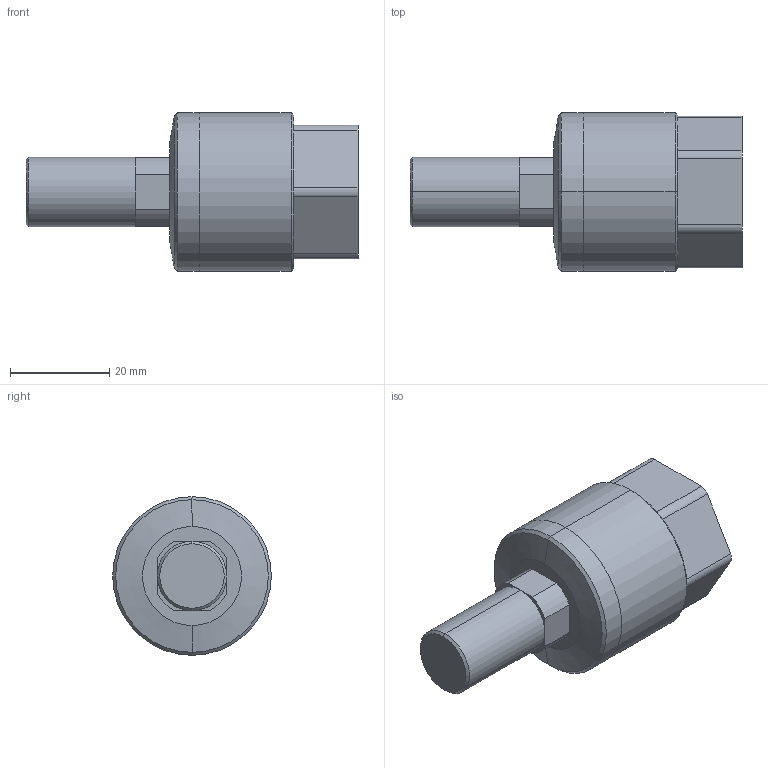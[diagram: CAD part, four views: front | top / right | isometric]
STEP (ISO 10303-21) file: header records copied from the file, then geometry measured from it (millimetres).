
FILE_DESCRIPTION (( 'STEP AP203' ), '1' );
FILE_NAME ('FCM14A-1.5.STEP', '2016-03-23T03:41:44', ( 'Sam Lin' ), ( '' ), 'SwSTEP 2.0', 'SolidWorks 2013', '' );
FILE_SCHEMA (( 'CONFIG_CONTROL_DESIGN' ));
Length unit declared in the file: millimetre
Products named in the file (1): FCM14A-1.5
Bounding box: 67 x 32 x 32 mm (x, y, z)
Volume: 30242.8 mm3; surface area: 7183.8 mm2
Topology: 1 solids, 1 shells, 46 faces, 108 edges, 65 vertices
Faces by surface type: cylinder 18, plane 18, cone 10
Entity records: 1375 total; most frequent: DIRECTION 244, CARTESIAN_POINT 218, ORIENTED_EDGE 212, EDGE_CURVE 106, AXIS2_PLACEMENT_3D 91, VERTEX_POINT 65, VECTOR 62, LINE 62
